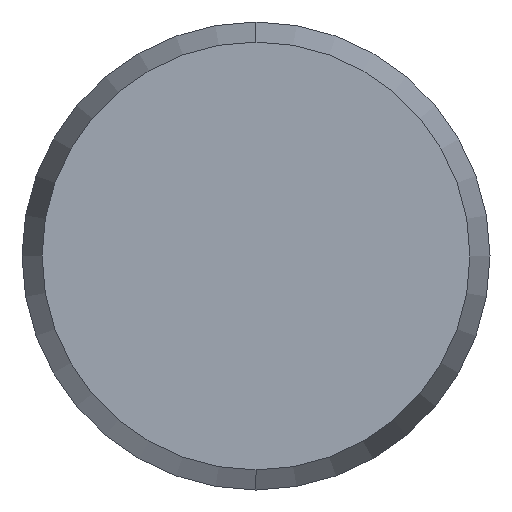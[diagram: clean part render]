
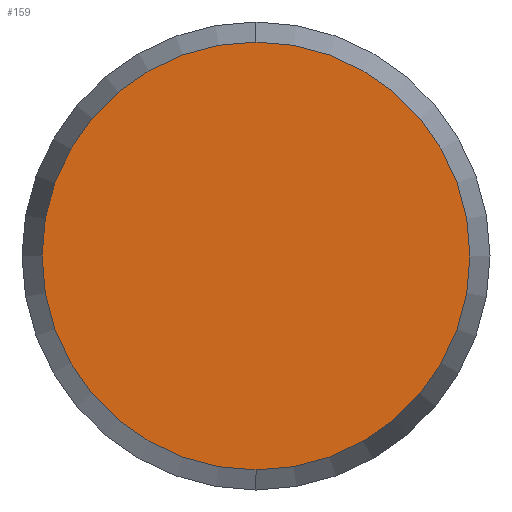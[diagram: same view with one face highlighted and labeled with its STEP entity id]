
A CAD part, left-side view. The second image highlights one B-rep face of the part: STEP entity #159.
In plain terms, the highlighted planar face has unit normal (-1, 0, 0).
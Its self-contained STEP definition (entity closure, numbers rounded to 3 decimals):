
#126 = EDGE_CURVE ( 'NONE', #127, #128, #224, .T. ) ;
#127 = VERTEX_POINT ( 'NONE', #219 ) ;
#128 = VERTEX_POINT ( 'NONE', #218 ) ;
#156 = EDGE_CURVE ( 'NONE', #128, #127, #263, .T. ) ;
#159 = ADVANCED_FACE ( 'NONE', ( #258 ), #257, .F. ) ;
#160 = EDGE_LOOP ( 'NONE', ( #161, #162 ) ) ;
#161 = ORIENTED_EDGE ( 'NONE', *, *, #126, .F. ) ;
#162 = ORIENTED_EDGE ( 'NONE', *, *, #156, .F. ) ;
#218 = CARTESIAN_POINT ( 'NONE',  ( -4., 0., -2.286 ) ) ;
#219 = CARTESIAN_POINT ( 'NONE',  ( -4., 0., 2.286 ) ) ;
#220 = DIRECTION ( 'NONE',  ( 0., 0., -1. ) ) ;
#221 = DIRECTION ( 'NONE',  ( 1., 0., 0. ) ) ;
#222 = CARTESIAN_POINT ( 'NONE',  ( -4., 0., 0. ) ) ;
#223 = AXIS2_PLACEMENT_3D ( 'NONE', #222, #221, #220 ) ;
#224 = CIRCLE ( 'NONE', #223, 2.286 ) ;
#253 = DIRECTION ( 'NONE',  ( 0., 0., -1. ) ) ;
#254 = DIRECTION ( 'NONE',  ( 1., 0., 0. ) ) ;
#255 = CARTESIAN_POINT ( 'NONE',  ( -4., 0., 0. ) ) ;
#256 = AXIS2_PLACEMENT_3D ( 'NONE', #255, #254, #253 ) ;
#257 = PLANE ( 'NONE',  #256 ) ;
#258 = FACE_OUTER_BOUND ( 'NONE', #160, .T. ) ;
#259 = DIRECTION ( 'NONE',  ( 0., 0., -1. ) ) ;
#260 = DIRECTION ( 'NONE',  ( 1., 0., 0. ) ) ;
#261 = CARTESIAN_POINT ( 'NONE',  ( -4., 0., 0. ) ) ;
#262 = AXIS2_PLACEMENT_3D ( 'NONE', #261, #260, #259 ) ;
#263 = CIRCLE ( 'NONE', #262, 2.286 ) ;
